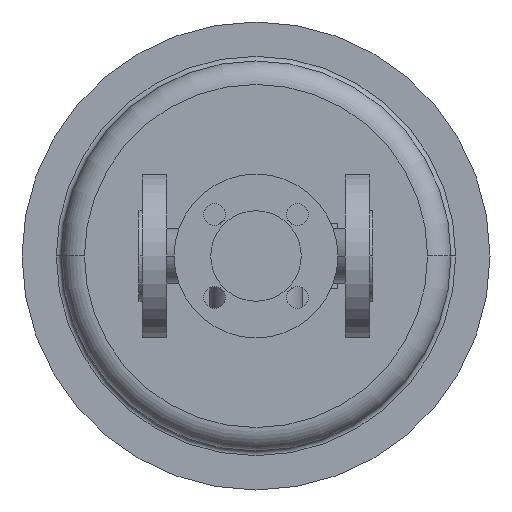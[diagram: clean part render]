
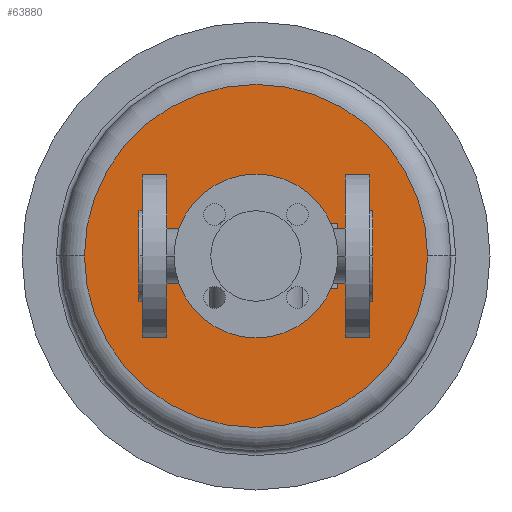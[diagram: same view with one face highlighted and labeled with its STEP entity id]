
A CAD part, front view. The second image highlights one B-rep face of the part: STEP entity #63880.
In plain terms, the highlighted planar face has unit normal (0, -1, 0).
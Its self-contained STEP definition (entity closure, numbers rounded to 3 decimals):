
#51120=CARTESIAN_POINT('',(-35.,541.,0.));
#51130=VERTEX_POINT('',#51120);
#51220=CARTESIAN_POINT('',(185.,541.,0.));
#51230=VERTEX_POINT('',#51220);
#51260=CARTESIAN_POINT('',(75.,541.,0.));
#51270=DIRECTION('',(0.,1.,0.));
#51280=DIRECTION('',(1.,0.,0.));
#51290=AXIS2_PLACEMENT_3D('',#51260,#51270,#51280);
#51300=CIRCLE('',#51290,110.);
#51310=EDGE_CURVE('',#51130,#51230,#51300,.T.);
#51890=CARTESIAN_POINT('',(110.,541.,0.));
#51900=VERTEX_POINT('',#51890);
#52060=CARTESIAN_POINT('',(140.,541.,0.));
#52070=VERTEX_POINT('',#52060);
#52100=CARTESIAN_POINT('',(125.,541.,0.));
#52110=DIRECTION('',(0.,1.,0.));
#52120=DIRECTION('',(1.,0.,0.));
#52130=AXIS2_PLACEMENT_3D('',#52100,#52110,#52120);
#52140=CIRCLE('',#52130,15.);
#52150=EDGE_CURVE('',#52070,#51900,#52140,.T.);
#52310=CARTESIAN_POINT('',(10.,541.,0.));
#52320=VERTEX_POINT('',#52310);
#52350=CARTESIAN_POINT('',(25.,541.,0.));
#52360=DIRECTION('',(0.,1.,0.));
#52370=DIRECTION('',(1.,0.,0.));
#52380=AXIS2_PLACEMENT_3D('',#52350,#52360,#52370);
#52390=CIRCLE('',#52380,15.);
#52400=CARTESIAN_POINT('',(40.,541.,0.));
#52410=VERTEX_POINT('',#52400);
#52420=EDGE_CURVE('',#52320,#52410,#52390,.T.);
#52710=CARTESIAN_POINT('',(56.55,541.,0.));
#52720=VERTEX_POINT('',#52710);
#52940=CARTESIAN_POINT('',(93.45,541.,0.));
#52950=VERTEX_POINT('',#52940);
#52980=CARTESIAN_POINT('',(75.,541.,0.));
#52990=DIRECTION('',(0.,1.,0.));
#53000=DIRECTION('',(1.,0.,0.));
#53010=AXIS2_PLACEMENT_3D('',#52980,#52990,#53000);
#53020=CIRCLE('',#53010,18.45);
#53030=EDGE_CURVE('',#52950,#52720,#53020,.T.);
#63630=CARTESIAN_POINT('',(130.,541.,0.));
#63640=DIRECTION('',(0.,-1.,0.));
#63650=DIRECTION('',(-1.,0.,0.));
#63660=AXIS2_PLACEMENT_3D('',#63630,#63640,#63650);
#63670=PLANE('',#63660);
#63680=EDGE_CURVE('',#52720,#52950,#53020,.T.);
#63690=ORIENTED_EDGE('',*,*,#63680,.T.);
#63700=ORIENTED_EDGE('',*,*,#53030,.T.);
#63710=EDGE_LOOP('',(#63700,#63690));
#63720=FACE_BOUND('',#63710,.T.);
#63730=ORIENTED_EDGE('',*,*,#52420,.T.);
#63740=EDGE_CURVE('',#52410,#52320,#52390,.T.);
#63750=ORIENTED_EDGE('',*,*,#63740,.T.);
#63760=EDGE_LOOP('',(#63750,#63730));
#63770=FACE_BOUND('',#63760,.T.);
#63780=EDGE_CURVE('',#51900,#52070,#52140,.T.);
#63790=ORIENTED_EDGE('',*,*,#63780,.T.);
#63800=ORIENTED_EDGE('',*,*,#52150,.T.);
#63810=EDGE_LOOP('',(#63800,#63790));
#63820=FACE_BOUND('',#63810,.T.);
#63830=EDGE_CURVE('',#51230,#51130,#51300,.T.);
#63840=ORIENTED_EDGE('',*,*,#63830,.F.);
#63850=ORIENTED_EDGE('',*,*,#51310,.F.);
#63860=EDGE_LOOP('',(#63850,#63840));
#63870=FACE_OUTER_BOUND('',#63860,.T.);
#63880=ADVANCED_FACE('',(#63720,#63770,#63820,#63870),#63670,.T.);
